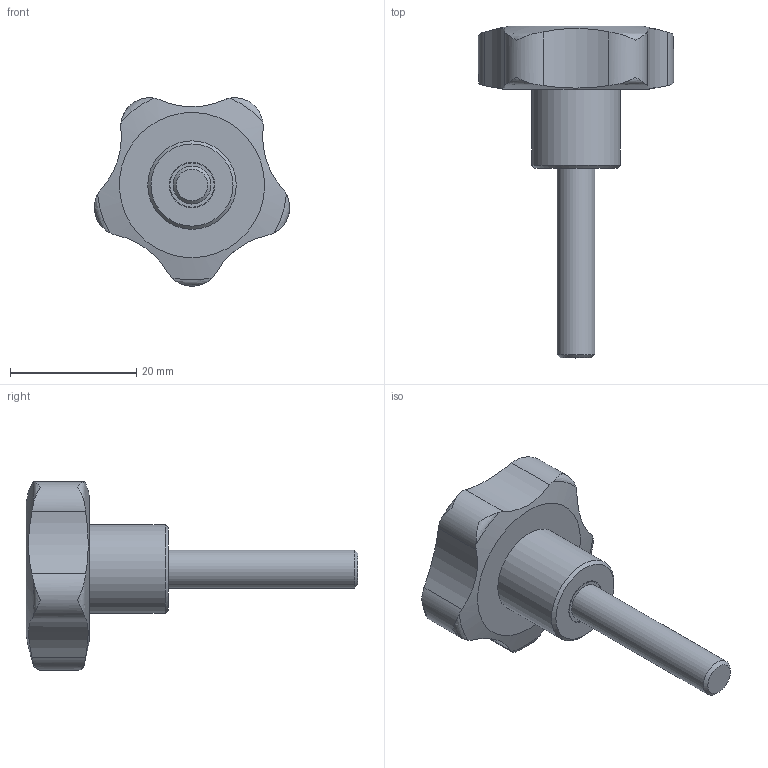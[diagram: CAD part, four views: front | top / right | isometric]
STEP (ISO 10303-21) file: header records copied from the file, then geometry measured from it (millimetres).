
FILE_DESCRIPTION( ( 'STEP AP203' ), '1' );
FILE_NAME( 'C:/Temp/Ganter_Step_05_03_2020/data/2_2/gn_5337_4/gn_5337_4_s/Star knob GN 5337.4-32-M6-30.stp', '2020-03-05T12:09:42', ( 'License CC BY-ND 4.0' ), ( 'CADENAS' ), ' ', 'PARTsolutions', ' ' );
FILE_SCHEMA( ( 'CONFIG_CONTROL_DESIGN' ) );
Length unit declared in the file: millimetre
Products named in the file (1): _Star knob GN 5337.4-32-M6-30
Bounding box: 30.87 x 52.5 x 29.8 mm (x, y, z)
Volume: 8663.6 mm3; surface area: 3198.8 mm2
Topology: 1 solids, 1 shells, 34 faces, 90 edges, 61 vertices
Faces by surface type: cylinder 14, torus 10, plane 5, cone 3, bspline 1, sphere 1
Full cylindrical faces by diameter (mm): 6 x1, 7 x1, 7.2 x1, 14 x1
Entity records: 1437 total; most frequent: CARTESIAN_POINT 674, ORIENTED_EDGE 154, DIRECTION 122, EDGE_CURVE 77, VERTEX_POINT 58, AXIS2_PLACEMENT_3D 56, EDGE_LOOP 46, B_SPLINE_CURVE_WITH_KNOTS 45
